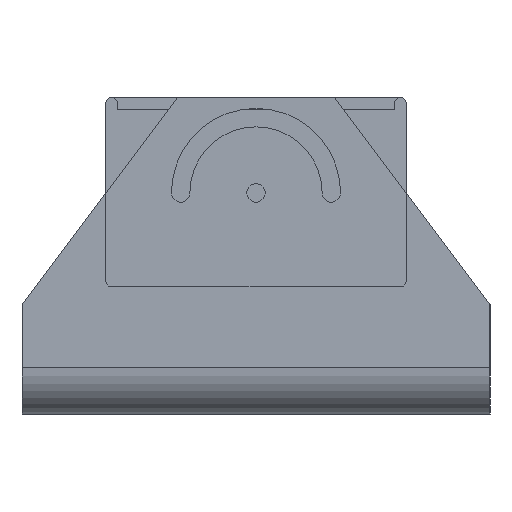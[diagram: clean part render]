
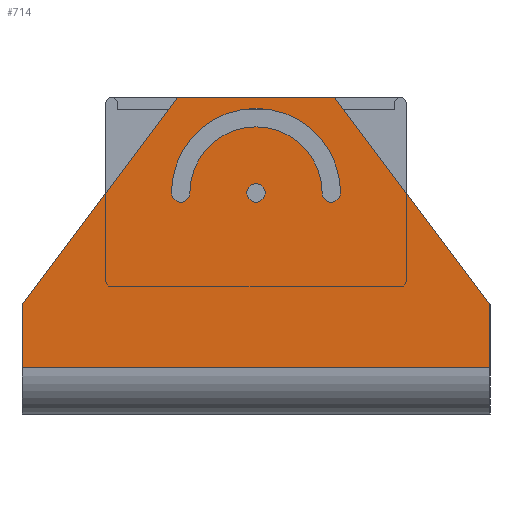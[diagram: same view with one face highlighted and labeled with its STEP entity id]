
A CAD part, left-side view. The second image highlights one B-rep face of the part: STEP entity #714.
In plain terms, the highlighted planar face has unit normal (-1, 0, 0) as drawn and (0, 0, 1) by its records, which use the part's own axes.
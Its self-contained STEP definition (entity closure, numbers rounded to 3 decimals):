
#10 = EDGE_CURVE ( 'NONE', #2725, #2846, #604, .T. ) ;
#11 = EDGE_CURVE ( 'NONE', #2728, #2735, #605, .T. ) ;
#13 = EDGE_CURVE ( 'NONE', #2731, #2728, #608, .T. ) ;
#20 = EDGE_CURVE ( 'NONE', #2722, #2856, #620, .T. ) ;
#24 = EDGE_CURVE ( 'NONE', #2735, #2730, #625, .T. ) ;
#29 = EDGE_CURVE ( 'NONE', #2856, #2725, #634, .T. ) ;
#32 = EDGE_CURVE ( 'NONE', #2846, #2722, #638, .T. ) ;
#47 = EDGE_CURVE ( 'NONE', #2963, #447, #671, .T. ) ;
#311 = EDGE_LOOP ( 'NONE', ( #360, #359, #361, #358 ) ) ;
#312 = EDGE_LOOP ( 'NONE', ( #563, #471 ) ) ;
#313 = EDGE_LOOP ( 'NONE', ( #511, #589, #487, #554, #520, #569 ) ) ;
#358 = ORIENTED_EDGE ( 'NONE', *, *, #20, .F. ) ;
#359 = ORIENTED_EDGE ( 'NONE', *, *, #10, .F. ) ;
#360 = ORIENTED_EDGE ( 'NONE', *, *, #32, .F. ) ;
#361 = ORIENTED_EDGE ( 'NONE', *, *, #29, .F. ) ;
#447 = VERTEX_POINT ( 'NONE', #1103 ) ;
#471 = ORIENTED_EDGE ( 'NONE', *, *, #1315, .F. ) ;
#487 = ORIENTED_EDGE ( 'NONE', *, *, #1344, .F. ) ;
#511 = ORIENTED_EDGE ( 'NONE', *, *, #11, .F. ) ;
#520 = ORIENTED_EDGE ( 'NONE', *, *, #1371, .F. ) ;
#554 = ORIENTED_EDGE ( 'NONE', *, *, #1374, .F. ) ;
#563 = ORIENTED_EDGE ( 'NONE', *, *, #47, .F. ) ;
#569 = ORIENTED_EDGE ( 'NONE', *, *, #24, .F. ) ;
#589 = ORIENTED_EDGE ( 'NONE', *, *, #13, .F. ) ;
#604 = CIRCLE ( 'NONE', #1220, 12.344 ) ;
#605 = LINE ( 'NONE', #1019, #606 ) ;
#606 = VECTOR ( 'NONE', #1018, 1000. ) ;
#608 = LINE ( 'NONE', #1030, #609 ) ;
#609 = VECTOR ( 'NONE', #1022, 1000. ) ;
#620 = CIRCLE ( 'NONE', #1222, 9.652 ) ;
#625 = LINE ( 'NONE', #1067, #626 ) ;
#626 = VECTOR ( 'NONE', #1064, 1000. ) ;
#634 = CIRCLE ( 'NONE', #1381, 1.346 ) ;
#638 = CIRCLE ( 'NONE', #1785, 1.346 ) ;
#671 = CIRCLE ( 'NONE', #885, 1.346 ) ;
#714 = ADVANCED_FACE ( 'NONE', ( #2495, #2498, #2500 ), #1965, .F. ) ;
#853 = AXIS2_PLACEMENT_3D ( 'NONE', #1959, #1955, #1949 ) ;
#855 = LINE ( 'NONE', #1748, #862 ) ;
#862 = VECTOR ( 'NONE', #1745, 1000. ) ;
#863 = LINE ( 'NONE', #1762, #864 ) ;
#864 = VECTOR ( 'NONE', #1761, 1000. ) ;
#885 = AXIS2_PLACEMENT_3D ( 'NONE', #1108, #1188, #1123 ) ;
#892 = AXIS2_PLACEMENT_3D ( 'NONE', #2083, #2082, #2081 ) ;
#1007 = DIRECTION ( 'NONE',  ( 1., 0., 0. ) ) ;
#1009 = DIRECTION ( 'NONE',  ( 0., 0., 1. ) ) ;
#1014 = CARTESIAN_POINT ( 'NONE',  ( 10.998, 28.956, 0. ) ) ;
#1017 = DIRECTION ( 'NONE',  ( 0., 0., 1. ) ) ;
#1018 = DIRECTION ( 'NONE',  ( -1., 0., 0. ) ) ;
#1019 = CARTESIAN_POINT ( 'NONE',  ( -34.163, 3.429, 0. ) ) ;
#1020 = CARTESIAN_POINT ( 'NONE',  ( 0., 28.956, 0. ) ) ;
#1022 = DIRECTION ( 'NONE',  ( 0., -1., 0. ) ) ;
#1030 = CARTESIAN_POINT ( 'NONE',  ( 34.163, 0., 0. ) ) ;
#1041 = CARTESIAN_POINT ( 'NONE',  ( -10.998, 28.956, 0. ) ) ;
#1064 = DIRECTION ( 'NONE',  ( 0., 1., 0. ) ) ;
#1067 = CARTESIAN_POINT ( 'NONE',  ( -34.163, 0., 0. ) ) ;
#1070 = DIRECTION ( 'NONE',  ( 1., 0., 0. ) ) ;
#1072 = DIRECTION ( 'NONE',  ( 0., 0., -1. ) ) ;
#1074 = DIRECTION ( 'NONE',  ( 1., 0., 0. ) ) ;
#1078 = DIRECTION ( 'NONE',  ( 0., 0., 1. ) ) ;
#1079 = CARTESIAN_POINT ( 'NONE',  ( 0., 28.956, 0. ) ) ;
#1103 = CARTESIAN_POINT ( 'NONE',  ( -1.346, 28.956, 0. ) ) ;
#1108 = CARTESIAN_POINT ( 'NONE',  ( 0., 28.956, 0. ) ) ;
#1123 = DIRECTION ( 'NONE',  ( 1., 0., 0. ) ) ;
#1157 = DIRECTION ( 'NONE',  ( 1., 0., 0. ) ) ;
#1188 = DIRECTION ( 'NONE',  ( 0., 0., 1. ) ) ;
#1220 = AXIS2_PLACEMENT_3D ( 'NONE', #1020, #1017, #1070 ) ;
#1222 = AXIS2_PLACEMENT_3D ( 'NONE', #1079, #1072, #1074 ) ;
#1315 = EDGE_CURVE ( 'NONE', #447, #2963, #1406, .T. ) ;
#1344 = EDGE_CURVE ( 'NONE', #2729, #2731, #2621, .T. ) ;
#1371 = EDGE_CURVE ( 'NONE', #2730, #2677, #863, .T. ) ;
#1374 = EDGE_CURVE ( 'NONE', #2677, #2729, #855, .T. ) ;
#1381 = AXIS2_PLACEMENT_3D ( 'NONE', #1014, #1009, #1007 ) ;
#1406 = CIRCLE ( 'NONE', #892, 1.346 ) ;
#1440 = CARTESIAN_POINT ( 'NONE',  ( -34.163, 3.429, 0. ) ) ;
#1442 = CARTESIAN_POINT ( 'NONE',  ( 34.163, 12.7, 0. ) ) ;
#1447 = CARTESIAN_POINT ( 'NONE',  ( -34.163, 12.7, 0. ) ) ;
#1448 = CARTESIAN_POINT ( 'NONE',  ( 11.43, 42.926, 0. ) ) ;
#1449 = CARTESIAN_POINT ( 'NONE',  ( 34.163, 3.429, 0. ) ) ;
#1450 = CARTESIAN_POINT ( 'NONE',  ( 12.344, 28.956, 0. ) ) ;
#1452 = CARTESIAN_POINT ( 'NONE',  ( -9.652, 28.956, 0. ) ) ;
#1457 = CARTESIAN_POINT ( 'NONE',  ( -11.43, 42.926, 0. ) ) ;
#1531 = CARTESIAN_POINT ( 'NONE',  ( 1.346, 28.956, 0. ) ) ;
#1574 = CARTESIAN_POINT ( 'NONE',  ( -12.344, 28.956, 0. ) ) ;
#1637 = CARTESIAN_POINT ( 'NONE',  ( 9.652, 28.956, 0. ) ) ;
#1745 = DIRECTION ( 'NONE',  ( 1., 0., 0. ) ) ;
#1748 = CARTESIAN_POINT ( 'NONE',  ( -34.163, 42.926, 0. ) ) ;
#1761 = DIRECTION ( 'NONE',  ( 0.601, 0.799, 0. ) ) ;
#1762 = CARTESIAN_POINT ( 'NONE',  ( -34.163, 12.7, 0. ) ) ;
#1785 = AXIS2_PLACEMENT_3D ( 'NONE', #1041, #1078, #1157 ) ;
#1927 = DIRECTION ( 'NONE',  ( 0.601, -0.799, 0. ) ) ;
#1931 = CARTESIAN_POINT ( 'NONE',  ( 11.43, 42.926, 0. ) ) ;
#1949 = DIRECTION ( 'NONE',  ( -1., 0., 0. ) ) ;
#1955 = DIRECTION ( 'NONE',  ( 0., 0., -1. ) ) ;
#1959 = CARTESIAN_POINT ( 'NONE',  ( -34.163, 0., 0. ) ) ;
#1965 = PLANE ( 'NONE',  #853 ) ;
#2081 = DIRECTION ( 'NONE',  ( 1., 0., 0. ) ) ;
#2082 = DIRECTION ( 'NONE',  ( 0., 0., 1. ) ) ;
#2083 = CARTESIAN_POINT ( 'NONE',  ( 0., 28.956, 0. ) ) ;
#2495 = FACE_OUTER_BOUND ( 'NONE', #313, .T. ) ;
#2498 = FACE_BOUND ( 'NONE', #312, .T. ) ;
#2500 = FACE_BOUND ( 'NONE', #311, .T. ) ;
#2620 = VECTOR ( 'NONE', #1927, 1000. ) ;
#2621 = LINE ( 'NONE', #1931, #2620 ) ;
#2677 = VERTEX_POINT ( 'NONE', #1457 ) ;
#2722 = VERTEX_POINT ( 'NONE', #1452 ) ;
#2725 = VERTEX_POINT ( 'NONE', #1450 ) ;
#2728 = VERTEX_POINT ( 'NONE', #1449 ) ;
#2729 = VERTEX_POINT ( 'NONE', #1448 ) ;
#2730 = VERTEX_POINT ( 'NONE', #1447 ) ;
#2731 = VERTEX_POINT ( 'NONE', #1442 ) ;
#2735 = VERTEX_POINT ( 'NONE', #1440 ) ;
#2846 = VERTEX_POINT ( 'NONE', #1574 ) ;
#2856 = VERTEX_POINT ( 'NONE', #1637 ) ;
#2963 = VERTEX_POINT ( 'NONE', #1531 ) ;
